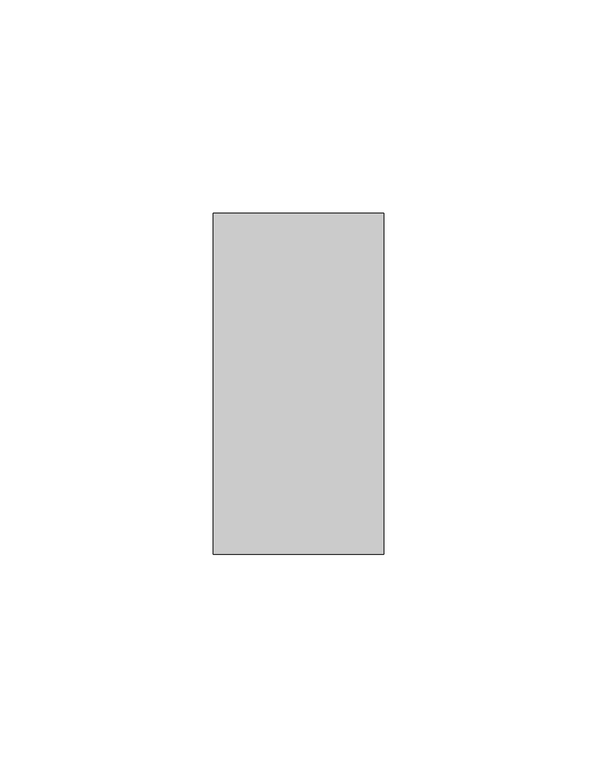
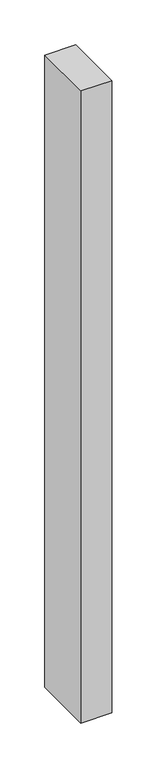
"""IFC4 building model written with IfcOpenShell, lengths in millimetres: member geometry, Obdélníková příčel : VERTI PANORAMA - vertikální."""

from ifc_helpers import new_model, si_unit, frame, origin, place, context, project, spatial, polyline, outline, extrude, source, transform, mapped, element, save


def member_dbd02eec(model_context):
    return source(origin(), model_context, "Body", "SweptSolid", [
        extrude(outline(polyline([(-40.0, 40.0), (0.0, 40.0), (0.0, -40.0), (-40.0, -40.0), (-40.0, 40.0)])), frame((0.0, 0.0, -860.0), z_axis=(0.0, 0.0, 1.0), x_axis=(1.0, 0.0, 0.0)), (0.0, 0.0, 1.0), 860.0),
    ])


if __name__ == "__main__":
    model = new_model("IFC4")
    model_context = context("Model", 3, world=origin())
    ifc_project = project(units=[si_unit("LENGTHUNIT", "METRE", prefix="MILLI")], contexts=[model_context])
    site = spatial("IfcSite", under=ifc_project)
    building = spatial("IfcBuilding", under=site)
    placement = place(None, origin())
    member_shape = member_dbd02eec(model_context)
    element("IfcMember", 1, ObjectType="Obdélníková příčel : VERTI PANORAMA - vertikální", at=placement, inside=building, context=model_context, shape_type="MappedRepresentation", body=[
        mapped(member_shape, transform((0.0, 0.0, 0.0), x_axis=(1.0, 0.0, 0.0), y_axis=(0.0, 1.0, 0.0), z_axis=(0.0, 0.0, 1.0))),
    ])
    save(model, "model.ifc")
